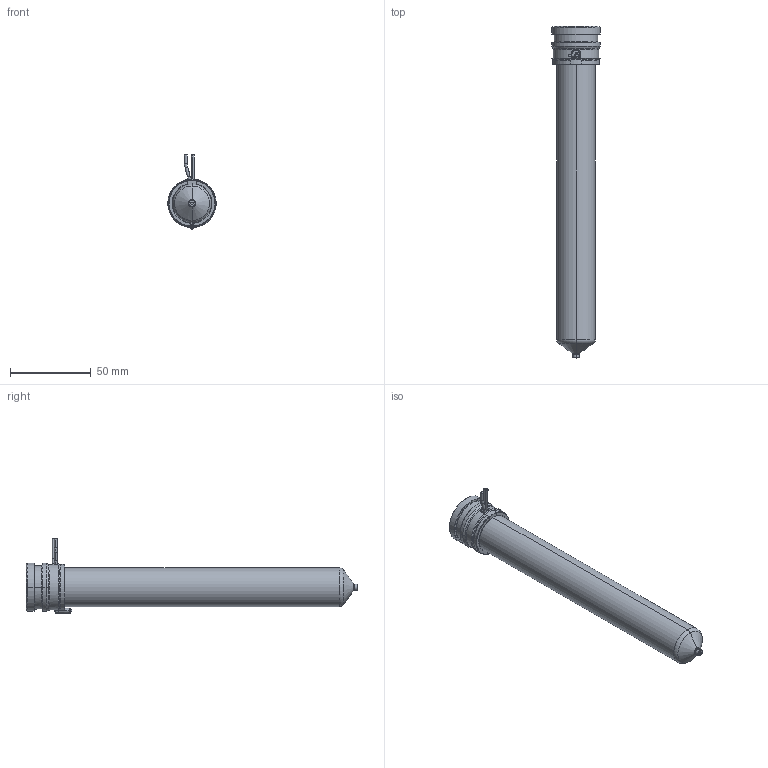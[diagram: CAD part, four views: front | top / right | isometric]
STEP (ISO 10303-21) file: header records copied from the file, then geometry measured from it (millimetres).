
FILE_DESCRIPTION((''),'2;1');
FILE_NAME('MPN-10-29-VP4-186-A','2026-02-05T12:43:34',('UPTIO'),('Thermoplay S.p.A.'),'CREO PARAMETRIC BY PTC INC, 2023494','CREO PARAMETRIC BY PTC INC, 2023494','');
FILE_SCHEMA(('CONFIG_CONTROL_DESIGN','SHAPE_APPEARANCE_LAYERS_GROUPS'));
Length unit declared in the file: millimetre
Products named in the file (1): MPN-10-29-VP4-186-A
Bounding box: 30 x 206.1 x 46 mm (x, y, z)
Volume: 63874.5 mm3; surface area: 64988.9 mm2
Topology: 2 solids, 3 shells, 580 faces, 1543 edges, 961 vertices
Faces by surface type: cylinder 180, plane 153, bspline 98, torus 70, cone 68, sphere 7, extrusion 4
Entity records: 32883 total; most frequent: CARTESIAN_POINT 15969, ORIENTED_EDGE 3074, DIRECTION 2691, EDGE_CURVE 1537, AXIS2_PLACEMENT_3D 1063, VERTEX_POINT 961, EDGE_LOOP 608, CIRCLE 584
